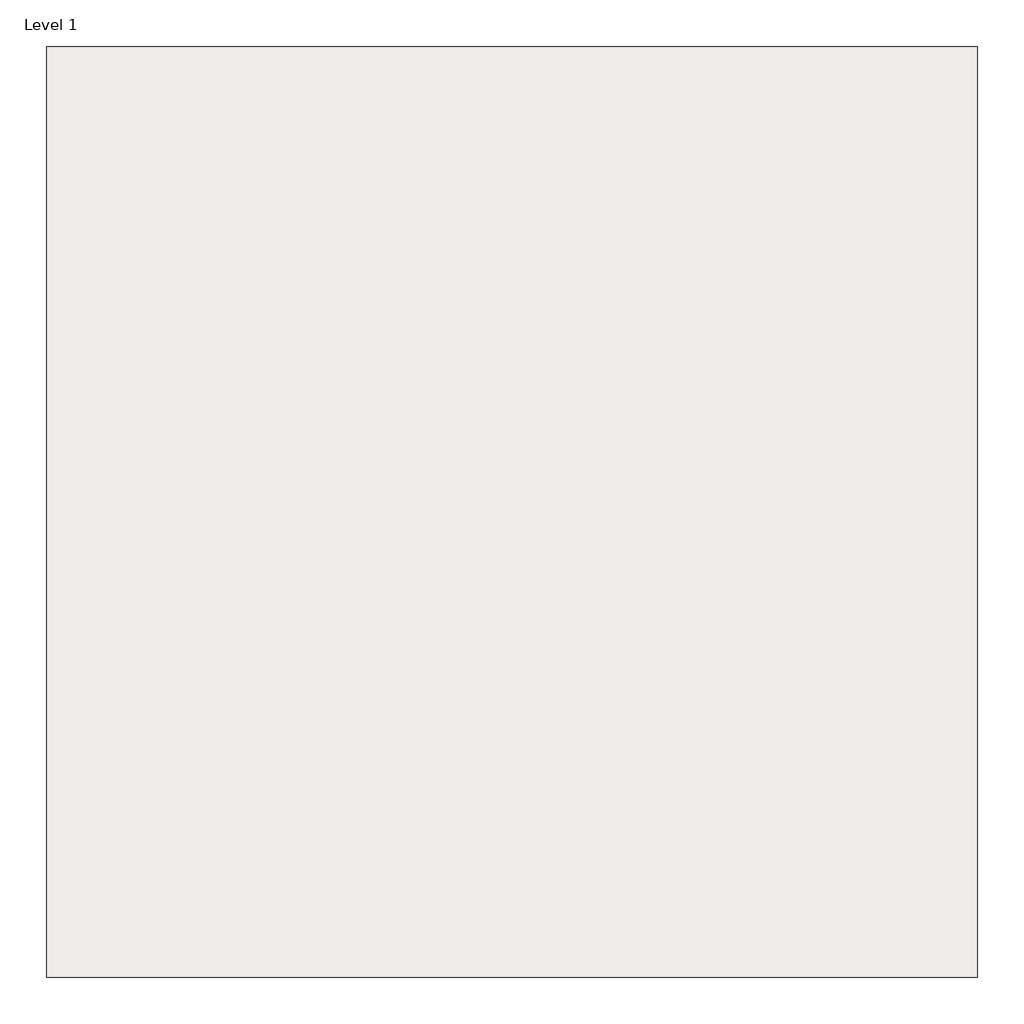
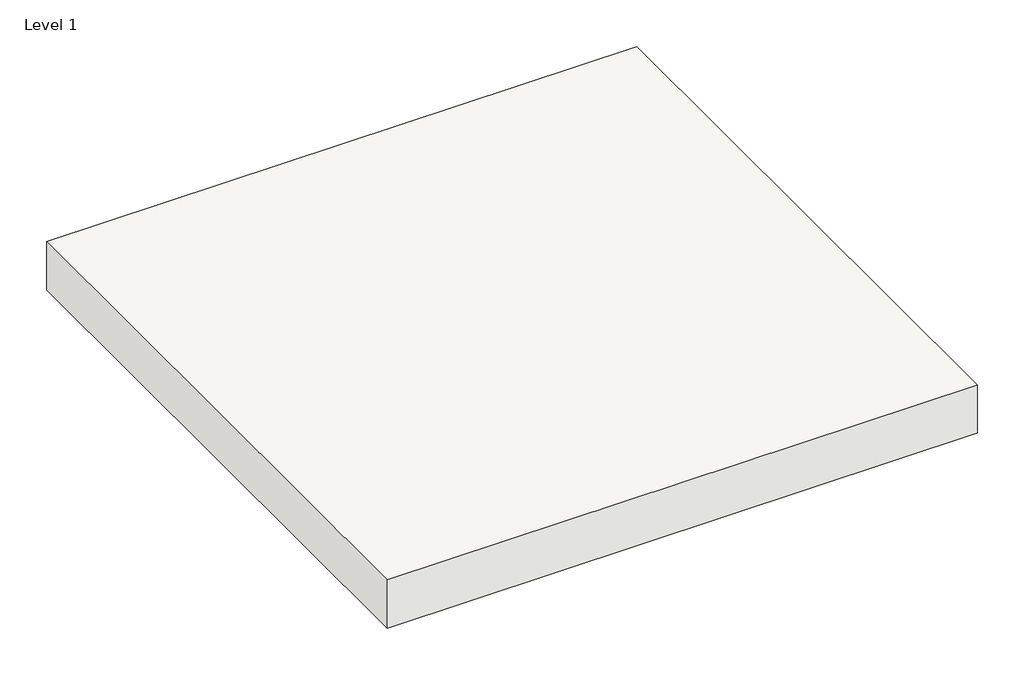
# One storey: 1 slab.
"""IFC4 building model written with IfcOpenShell, lengths in millimetres."""

from ifc_helpers import new_model, si_unit, frame, origin, place, context, project, spatial, polyline, outline, extrude, element, save

model = new_model("IFC4")

# Units and contexts
model_context = context("Model", 3, world=origin())
ifc_project = project(units=[si_unit("LENGTHUNIT", "METRE", prefix="MILLI")], contexts=[model_context])

# Site, building, storey
site = spatial("IfcSite", under=ifc_project)
building = spatial("IfcBuilding", under=site)
storey = spatial("IfcBuildingStorey", under=building, Name="Level 1", Elevation=0.0)

# Slab
placement = place(None, origin())
element("IfcSlab", 1, ObjectType="RIGIPS - 7.51.02 - REI 30 - 48dB", at=placement, inside=storey, context=model_context, shape_type="SweptSolid", body=[
    extrude(outline(polyline([(-1500.0, 1500.0), (1500.0, 1500.0), (1500.0, -1500.0), (-1500.0, -1500.0), (-1500.0, 1500.0)])), frame((0.0, 0.0, -260.0), z_axis=(0.0, 0.0, 1.0), x_axis=(1.0, 0.0, 0.0)), (0.0, 0.0, 1.0), 260.0),
])

save(model, "model.ifc")
